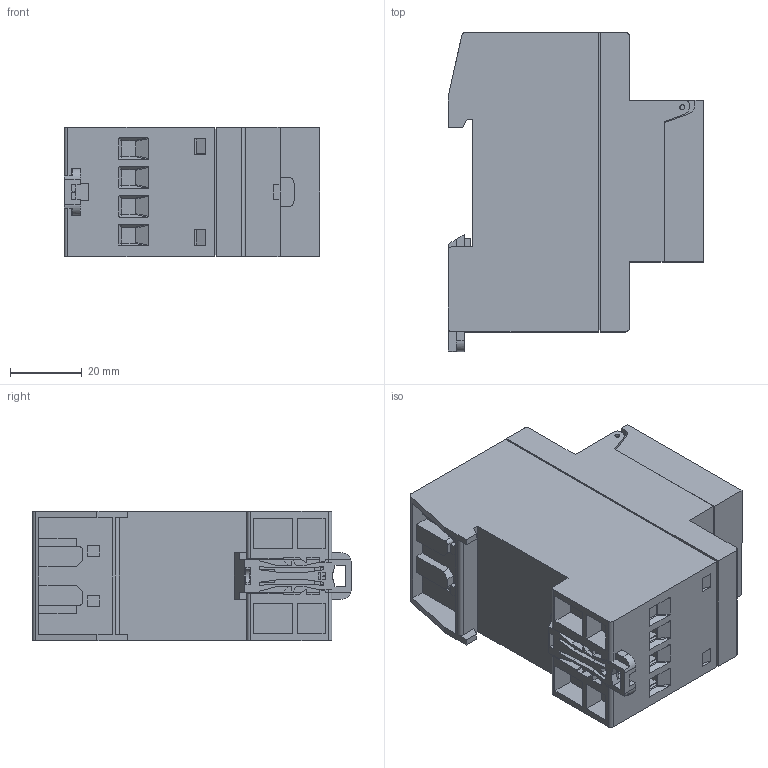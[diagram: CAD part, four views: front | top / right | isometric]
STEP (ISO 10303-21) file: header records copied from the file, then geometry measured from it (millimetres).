
FILE_DESCRIPTION (( 'STEP AP214' ), '1' );
FILE_NAME ('MAA-D16-001-A230__upr.step', '2014-09-05T08:45:30', ( '' ), ( '' ), 'SwSTEP 2.0', 'SolidWorks 2011', '' );
FILE_SCHEMA (( 'AUTOMOTIVE_DESIGN' ));
Length unit declared in the file: millimetre
Products named in the file (1): MAA-D16-001-A230__upr
Bounding box: 71.3 x 89 x 36 mm (x, y, z)
Volume: 151960.2 mm3; surface area: 33788.2 mm2
Topology: 3 solids, 3 shells, 1105 faces, 2944 edges, 1878 vertices
Faces by surface type: plane 764, cylinder 229, bspline 48, torus 40, cone 12, sphere 12
Entity records: 46675 total; most frequent: CARTESIAN_POINT 7580, ORIENTED_EDGE 5840, DIRECTION 5280, EDGE_CURVE 2920, VECTOR 2060, LINE 2060, VERTEX_POINT 1878, AXIS2_PLACEMENT_3D 1610
